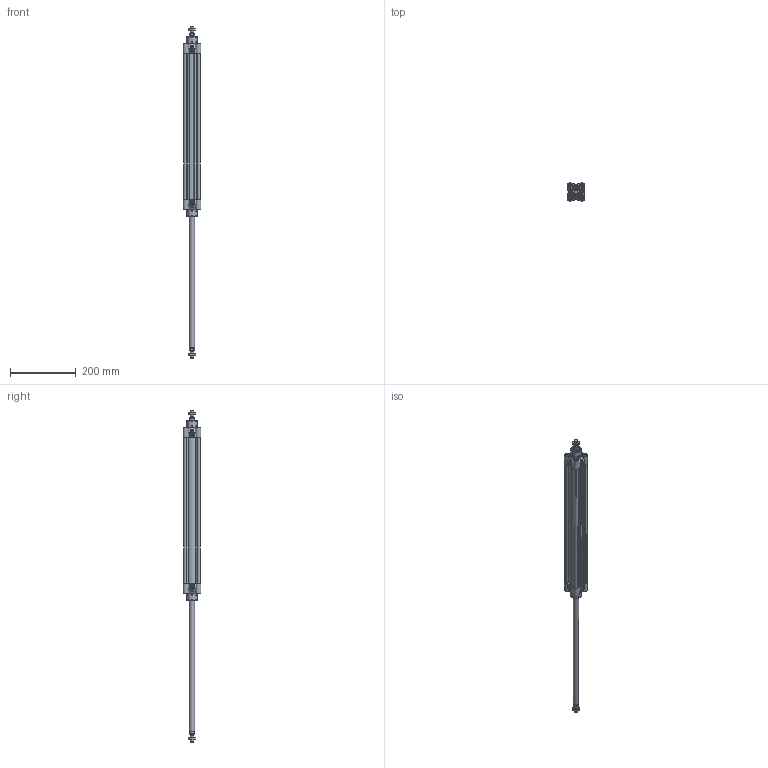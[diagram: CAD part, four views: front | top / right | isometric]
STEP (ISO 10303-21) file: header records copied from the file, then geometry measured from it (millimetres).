
FILE_DESCRIPTION(/* description */ ('Unknown'),/* implementation_level */ '2;1');
FILE_NAME(/* name */ 'HBF 40_400',/* time_stamp */ '2024-08-06T13:47:30+02:00',/* author */ ('Unknown'),/* organization */ ('Unknown'),/* preprocessor_version */ 'ST-DEVELOPER v16.7',/* originating_system */ 'Solid Edge',/* authorisation */ 'Unknown');
FILE_SCHEMA (('AUTOMOTIVE_DESIGN {1 0 10303 214 3 1 1}'));
Length unit declared in the file: millimetre
Products named in the file (6): HBF 40_400; Kit; Profilrohr 40_400; Mutter; Kolbenstange_1_40_400; Kolbenstange_2_40_400
Assembly tree (7 placements, depth 2):
  HBF 40_400
    Kit  x2
    Profilrohr 40_400
    Mutter  x2
    Kolbenstange_1_40_400
    Kolbenstange_2_40_400
Bounding box: 54.5 x 54.5 x 1013 mm (x, y, z)
Volume: 682249.3 mm3; surface area: 351590.5 mm2
Topology: 7 solids, 13 shells, 1003 faces, 2541 edges, 1656 vertices
Faces by surface type: plane 392, cylinder 313, cone 122, torus 84, bspline 74, sphere 18
Full cylindrical faces by diameter (mm): 2.5 x2, 4.917 x16, 6 x8, 6.2 x8, 7 x2, 9.9 x2, 10 x14, 10.3 x8, 10.647 x2, 11.44 x2, 11.445 x2, 12 x2, 15.5 x2, 16 x4, 16.6 x2, 16.8 x2, 16.847 x2, 20 x2, 26 x4, 33 x2, 35 x2, 40 x3
Entity records: 23228 total; most frequent: CARTESIAN_POINT 5425, ORIENTED_EDGE 3044, DIRECTION 3021, EDGE_CURVE 1522, AXIS2_PLACEMENT_3D 1162, VERTEX_POINT 1016, FACE_BOUND 718, EDGE_LOOP 714
